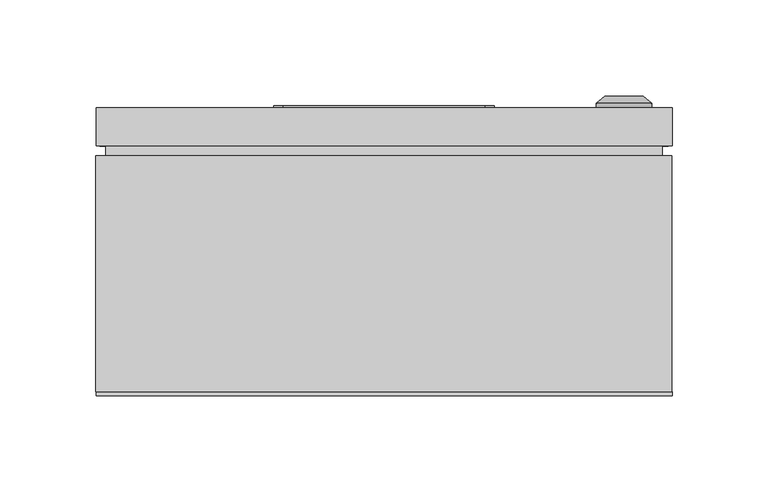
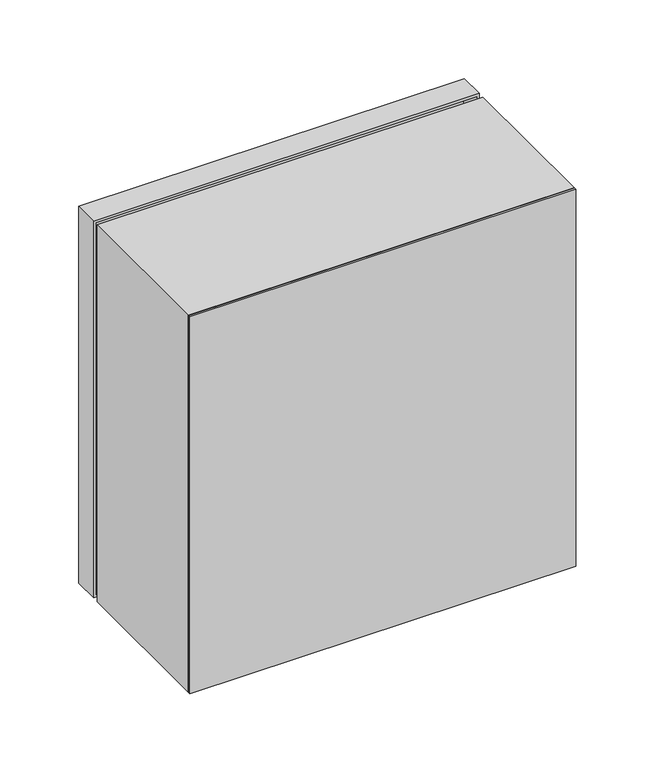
"""IFC4 building model written with IfcOpenShell, lengths in millimetres: proxy geometry, ЩУ-1ф_1-0-3_IP66 : ЩУ-1ф/1-0-3_IP66."""

import ifcopenshell
import ifcopenshell.guid

model = None  # the IFC model being written
_history = None  # IfcOwnerHistory: only IFC2X3 demands one
_inside = {}  # id of a spatial element -> (the spatial element, [elements in it])
_under = {}  # id of a project, library or spatial element -> (it, [spatial elements below it])
_declared = {}  # id of a project -> (the project, [libraries it declares])
_typed = {}  # id of a type object -> (the type object, [elements of that type])
_made_of = {}  # id of a material, layer set ... -> (it, [elements and type objects made of it])


def new_model(schema):
    """Start an empty IFC model of exactly this schema.

    Asked for "IFC4X3", IfcOpenShell would pick the latest addendum, in which some entities
    have other attributes; the version numbers below select the first issue.
    IFC2X3 requires an IfcOwnerHistory on every rooted entity: one is made here for all.
    """
    global model, _history
    if schema == "IFC4X3":
        model = ifcopenshell.file(schema_version=(4, 3, 0, 0))
    else:
        model = ifcopenshell.file(schema=schema)
    _inside.clear()
    _under.clear()
    _declared.clear()
    _typed.clear()
    _made_of.clear()
    _history = None
    if model.schema == "IFC2X3":
        org = make("IfcOrganization", Name="unknown")
        user = make(
            "IfcPersonAndOrganization",
            ThePerson=make("IfcPerson", FamilyName="unknown"),
            TheOrganization=org,
        )
        app = make(
            "IfcApplication",
            ApplicationDeveloper=org,
            Version="unknown",
            ApplicationFullName="unknown",
            ApplicationIdentifier="unknown",
        )
        _history = make(
            "IfcOwnerHistory",
            OwningUser=user,
            OwningApplication=app,
            ChangeAction="ADDED",
            CreationDate=0,
        )
    return model


def make(cls, **values):
    """One entity of the class cls with the attributes given. An attribute that is None is left unset."""
    return model.create_entity(
        cls, **{name: value for name, value in values.items() if value is not None}
    )


def rooted(cls, **values):
    """An entity with a GlobalId (a new one), such as an element, a storey or a relation."""
    return make(cls, GlobalId=ifcopenshell.guid.new(), OwnerHistory=_history, **values)


def si_unit(unit_type, name, prefix=None):
    """IfcSIUnit, for example si_unit("LENGTHUNIT", "METRE", prefix="MILLI")."""
    return make("IfcSIUnit", UnitType=unit_type, Prefix=prefix, Name=name)


def assignment(units):
    """IfcUnitAssignment: the units of a project."""
    return None if units is None else make("IfcUnitAssignment", Units=units)


def point(xyz):
    """IfcCartesianPoint."""
    return None if xyz is None else make("IfcCartesianPoint", Coordinates=xyz)


def direction(xyz):
    """IfcDirection."""
    return None if xyz is None else make("IfcDirection", DirectionRatios=xyz)


def frame(location, z_axis=None, x_axis=None):
    """IfcAxis2Placement3D, a coordinate frame: its origin and axes. An axis left out is left unset."""
    return make(
        "IfcAxis2Placement3D",
        Location=point(location),
        Axis=direction(z_axis),
        RefDirection=direction(x_axis),
    )


def frame_2d(location, x_axis=None):
    """IfcAxis2Placement2D, a coordinate frame in the plane: its origin and x axis."""
    return make(
        "IfcAxis2Placement2D", Location=point(location), RefDirection=direction(x_axis)
    )


def origin():
    """The frame at (0, 0, 0) with its axes left unset."""
    return frame((0.0, 0.0, 0.0))


def origin_with_axes():
    """The frame at (0, 0, 0) with the z axis (0, 0, 1) and the x axis (1, 0, 0) written out."""
    return frame((0.0, 0.0, 0.0), z_axis=(0.0, 0.0, 1.0), x_axis=(1.0, 0.0, 0.0))


def place(relative_to, where):
    """IfcLocalPlacement: puts the frame where relative to a parent placement (None: the world)."""
    return make(
        "IfcLocalPlacement", PlacementRelTo=relative_to, RelativePlacement=where
    )


def context(
    kind, dimensions, precision=None, world=None, true_north=None, identifier=None
):
    """IfcGeometricRepresentationContext, for example the 3D "Model" context."""
    return make(
        "IfcGeometricRepresentationContext",
        ContextIdentifier=identifier,
        ContextType=kind,
        CoordinateSpaceDimension=dimensions,
        Precision=precision,
        WorldCoordinateSystem=world,
        TrueNorth=true_north,
    )


def project(units=None, contexts=None):
    """IfcProject with its units and contexts."""
    return rooted(
        "IfcProject",
        Name="project",
        RepresentationContexts=contexts,
        UnitsInContext=assignment(units),
    )


def spatial(cls, under=None, at=None, **own):
    """A site, building, storey or space (cls), placed at a placement, below another one or the project."""
    s = rooted(cls, ObjectPlacement=at, **own)
    if under is not None:
        _under.setdefault(under.id(), (under, []))[1].append(s)
    return s


def polyline(points):
    """IfcPolyline through the points."""
    return make("IfcPolyline", Points=[point(p) for p in points])


def circle_curve(where, radius):
    """IfcCircle in the frame where."""
    return make("IfcCircle", Position=where, Radius=radius)


def trimmed(basis, trim1, trim2, sense, master):
    """IfcTrimmedCurve: the piece of a basis curve between two trims."""
    return make(
        "IfcTrimmedCurve",
        BasisCurve=basis,
        Trim1=trim1,
        Trim2=trim2,
        SenseAgreement=sense,
        MasterRepresentation=master,
    )


def segment(curve, same_sense, transition):
    """IfcCompositeCurveSegment."""
    return make(
        "IfcCompositeCurveSegment",
        Transition=transition,
        SameSense=same_sense,
        ParentCurve=curve,
    )


def composite_curve(segments, self_intersect=None):
    """IfcCompositeCurve: segments joined end to end."""
    return make("IfcCompositeCurve", Segments=segments, SelfIntersect=self_intersect)


def outline(outer, holes=None, kind="AREA"):
    """IfcArbitraryClosedProfileDef: a profile drawn as a closed curve; with holes, ...WithVoids."""
    if holes is None:
        return make("IfcArbitraryClosedProfileDef", ProfileType=kind, OuterCurve=outer)
    return make(
        "IfcArbitraryProfileDefWithVoids",
        ProfileType=kind,
        OuterCurve=outer,
        InnerCurves=holes,
    )


def extrude(swept, where, along, depth):
    """IfcExtrudedAreaSolid: the profile swept, set in the frame where, extruded along a direction by depth."""
    return make(
        "IfcExtrudedAreaSolid",
        SweptArea=swept,
        Position=where,
        ExtrudedDirection=direction(along),
        Depth=depth,
    )


def faces_of(points, faces, orient=None, outer=None):
    """IfcFace entities. A face is a list of loops; a loop is a list of indices into points, from 0.

    orient and outer hold one flag for each loop. By default every Orientation is true, the
    first loop of a face is its IfcFaceOuterBound and the others are IfcFaceBound.
    """
    made = []
    for i, loops in enumerate(faces):
        bounds = []
        for j, loop in enumerate(loops):
            is_outer = j == 0 if outer is None else outer[i][j]
            bounds.append(
                make(
                    "IfcFaceOuterBound" if is_outer else "IfcFaceBound",
                    Bound=make("IfcPolyLoop", Polygon=[points[k] for k in loop]),
                    Orientation=True if orient is None else orient[i][j],
                )
            )
        made.append(make("IfcFace", Bounds=bounds))
    return made


def faceted_brep(points, faces, orient=None, outer=None, voids=None):
    """IfcFacetedBrep: a solid bounded by flat faces; with voids (closed shells), ...WithVoids."""
    shared = [point(p) for p in points]
    hull = make("IfcClosedShell", CfsFaces=faces_of(shared, faces, orient, outer))
    if voids is None:
        return make("IfcFacetedBrep", Outer=hull)
    return make(
        "IfcFacetedBrepWithVoids",
        Outer=hull,
        Voids=[
            make(cls, CfsFaces=faces_of(shared, fs, o, b)) for cls, fs, o, b in voids
        ],
    )


def shape(context_of_items, identifier, shape_type, items):
    """IfcShapeRepresentation: the items that make up one representation, for example the "Body"."""
    return make(
        "IfcShapeRepresentation",
        ContextOfItems=context_of_items,
        RepresentationIdentifier=identifier,
        RepresentationType=shape_type,
        Items=items,
    )


def source(mapping_origin, context_of_items, identifier, shape_type, items):
    """IfcRepresentationMap: a shape defined once, which mapped items show again and again."""
    return make(
        "IfcRepresentationMap",
        MappingOrigin=mapping_origin,
        MappedRepresentation=shape(context_of_items, identifier, shape_type, items),
    )


def transform(
    local_origin,
    x_axis=None,
    y_axis=None,
    z_axis=None,
    scale=None,
    scale2=None,
    scale3=None,
    uniform=True,
):
    """IfcCartesianTransformationOperator3D, or its non-uniform kind. x_axis, y_axis, z_axis: its Axis1, 2, 3."""
    if uniform:
        return make(
            "IfcCartesianTransformationOperator3D",
            Axis1=direction(x_axis),
            Axis2=direction(y_axis),
            LocalOrigin=point(local_origin),
            Scale=scale,
            Axis3=direction(z_axis),
        )
    return make(
        "IfcCartesianTransformationOperator3DnonUniform",
        Axis1=direction(x_axis),
        Axis2=direction(y_axis),
        LocalOrigin=point(local_origin),
        Scale=scale,
        Axis3=direction(z_axis),
        Scale2=scale2,
        Scale3=scale3,
    )


def mapped(mapping_source, mapping_target):
    """IfcMappedItem: shows the shape of a source again, moved by a transform."""
    return make(
        "IfcMappedItem", MappingSource=mapping_source, MappingTarget=mapping_target
    )


def made_of(thing, what):
    """Note that an element or type object is made of a material, layer set ...; save() writes the relation."""
    if what is not None:
        _made_of.setdefault(what.id(), (what, []))[1].append(thing)
    return thing


def element(
    cls,
    number,
    at=None,
    inside=None,
    cuts=None,
    type_object=None,
    material=None,
    context=None,
    identifier="Body",
    shape_type=None,
    held_by="IfcProductDefinitionShape",
    body=None,
    shapes=None,
    **own,
):
    """One element of the class cls, such as IfcWall. Its Tag is "e" and its number.

    at: its placement. inside: the storey or other place that contains it. cuts: it is an
    opening in that element (IfcRelVoidsElement). A single representation is given by context,
    identifier, shape_type and body (its items); several are given by shapes. held_by: the class
    of the entity that holds the representations. save() writes the other relations.
    """
    e = rooted(cls, Tag="e%d" % number, ObjectPlacement=at, **own)
    if body is not None:
        shapes = [shape(context, identifier, shape_type, body)]
    if shapes is not None:
        e.Representation = make(held_by, Representations=shapes)
    if inside is not None:
        _inside.setdefault(inside.id(), (inside, []))[1].append(e)
    if cuts is not None:
        rooted(
            "IfcRelVoidsElement", RelatingBuildingElement=cuts, RelatedOpeningElement=e
        )
    if type_object is not None:
        _typed.setdefault(type_object.id(), (type_object, []))[1].append(e)
    return made_of(e, material)


def aggregate(whole, parts):
    """IfcRelAggregates: a whole, such as a stair, and the parts it consists of."""
    return rooted("IfcRelAggregates", RelatingObject=whole, RelatedObjects=parts)


def save(model, path):
    """Write the relations noted so far, then the file.

    IfcRelAggregates (storeys below a building ...), IfcRelContainedInSpatialStructure (elements
    in a storey), IfcRelDefinesByType, IfcRelAssociatesMaterial and IfcRelDeclares: one each for
    every whole, place, type object, material and project.
    """
    for whole, parts in _under.values():
        aggregate(whole, parts)
    for where, things in _inside.values():
        rooted(
            "IfcRelContainedInSpatialStructure",
            RelatedElements=things,
            RelatingStructure=where,
        )
    for kind, things in _typed.values():
        rooted("IfcRelDefinesByType", RelatedObjects=things, RelatingType=kind)
    for what, things in _made_of.values():
        rooted("IfcRelAssociatesMaterial", RelatedObjects=things, RelatingMaterial=what)
    for by, libraries in _declared.values():
        rooted("IfcRelDeclares", RelatingContext=by, RelatedDefinitions=libraries)
    model.write(path)


def plane_surface(at):
    """IfcPlane: the flat surface through the origin of the frame at, square to its z axis."""
    return make("IfcPlane", Position=at)


def cylinder_surface(at, radius):
    """IfcCylindricalSurface: all points at the distance radius from the z axis of the frame at."""
    return make("IfcCylindricalSurface", Position=at, Radius=radius)


def revolved_surface(curve, axis_point, axis_direction):
    """IfcSurfaceOfRevolution: the curve turned about the line through axis_point along axis_direction."""
    return make(
        "IfcSurfaceOfRevolution",
        SweptCurve=make("IfcArbitraryOpenProfileDef", ProfileType="CURVE", Curve=curve),
        AxisPosition=make("IfcAxis1Placement", Location=point(axis_point), Axis=direction(axis_direction)),
    )


def advanced_brep(points, edges, surfaces, faces):
    """IfcAdvancedBrep: a solid bounded by faces that lie on surfaces and meet in shared edges.

    An edge is (start, end): straight between two places in points (the first is 0);
    or (start, end, curve); or (start, end, curve, False) where it runs against its curve.
    A face is (place in surfaces, loops), or (place, loops, False) where it looks against
    its surface's normal. A loop lists edges by number (the first is 1), with a minus sign
    where the edge is run from its end to its start. The first loop is the outer one.
    """
    corners = [point(p) for p in points]
    vertices = [make("IfcVertexPoint", VertexGeometry=c) for c in corners]
    made = []
    for start, end, *more in edges:
        made.append(
            make(
                "IfcEdgeCurve",
                EdgeStart=vertices[start],
                EdgeEnd=vertices[end],
                EdgeGeometry=more[0] if more else make("IfcPolyline", Points=[corners[start], corners[end]]),
                SameSense=more[1] if len(more) > 1 else True,
            )
        )
    hull = []
    for where, loops, *sense in faces:
        bounds = []
        for j, loop in enumerate(loops):
            ring = [make("IfcOrientedEdge", EdgeElement=made[abs(k) - 1], Orientation=k > 0) for k in loop]
            bounds.append(
                make(
                    "IfcFaceOuterBound" if j == 0 else "IfcFaceBound",
                    Bound=make("IfcEdgeLoop", EdgeList=ring),
                    Orientation=True,
                )
            )
        hull.append(make("IfcAdvancedFace", Bounds=bounds, FaceSurface=surfaces[where], SameSense=sense[0] if sense else True))
    return make("IfcAdvancedBrep", Outer=make("IfcClosedShell", CfsFaces=hull))


def electrical_equipment_422eb44d(model_context):
    return source(origin(), model_context, "Body", "SolidModel", [
        extrude(outline(composite_curve([segment(polyline([(250.0, 52.5), (250.0, -52.5)]), True, "CONTINUOUS"), segment(trimmed(circle_curve(frame_2d((245.0, -52.5)), 5.0), [point((250.0, -52.5))], [point((245.0, -57.5))], False, "CARTESIAN"), True, "CONTINUOUS"), segment(polyline([(245.0, -57.5), (175.0, -57.5)]), True, "CONTINUOUS"), segment(trimmed(circle_curve(frame_2d((175.0, -52.5)), 5.0), [point((175.0, -57.5))], [point((170.0, -52.5))], False, "CARTESIAN"), True, "CONTINUOUS"), segment(polyline([(170.0, -52.5), (170.0, 52.5)]), True, "CONTINUOUS"), segment(trimmed(circle_curve(frame_2d((175.0, 52.5)), 5.0), [point((170.0, 52.5))], [point((175.0, 57.5))], False, "CARTESIAN"), True, "CONTINUOUS"), segment(polyline([(175.0, 57.5), (245.0, 57.5)]), True, "CONTINUOUS"), segment(trimmed(circle_curve(frame_2d((245.0, 52.5)), 5.0), [point((245.0, 57.5))], [point((250.0, 52.5))], False, "CARTESIAN"), True, "CONTINUOUS")], self_intersect=False), holes=[polyline([(245.0, -52.5), (245.0, 52.5), (175.0, 52.5), (175.0, -52.5), (245.0, -52.5)])]), frame((0.0, 150.0, 0.0), z_axis=(0.0, 1.0, 0.0), x_axis=(0.0, 0.0, 1.0)), (0.0, 0.0, 1.0), 1.0),
        extrude(outline(polyline([(52.5, 148.0), (-52.5, 148.0), (-52.5, 150.0), (52.5, 150.0), (52.5, 148.0)])), frame((0.0, 0.0, 175.0), z_axis=(0.0, 0.0, 1.0), x_axis=(1.0, 0.0, 0.0)), (0.0, 0.0, 1.0), 70.0),
        faceted_brep([(-150.0, 130.0, 310.0), (-150.0, 130.0, 0.0), (150.0, 130.0, 0.0), (150.0, 130.0, 310.0), (-148.0033905, 130.0, 2.0), (-148.0033905, 130.0, 308.0), (147.9966095, 130.0, 308.0), (147.9966095, 130.0, 2.0), (-150.0, 150.0, 310.0), (150.0, 150.0, 310.0), (150.0, 150.0, 0.0), (-150.0, 150.0, 0.0), (-52.5, 150.0, 245.0), (-52.5, 150.0, 175.0), (52.5, 150.0, 175.0), (52.5, 150.0, 245.0), (-148.0033905, 148.0, 308.0), (-148.0033905, 148.0, 2.0), (147.9966095, 148.0, 2.0), (147.9966095, 148.0, 308.0), (-52.5, 148.0, 245.0), (52.5, 148.0, 245.0), (52.5, 148.0, 175.0), (-52.5, 148.0, 175.0)], [[[0, 1, 2, 3], [4, 5, 6, 7]], [[8, 9, 10, 11], [12, 13, 14, 15]], [[1, 0, 8, 11]], [[2, 1, 11, 10]], [[3, 2, 10, 9]], [[0, 3, 9, 8]], [[16, 17, 18, 19], [20, 21, 22, 23]], [[17, 16, 5, 4]], [[18, 17, 4, 7]], [[19, 18, 7, 6]], [[16, 19, 6, 5]], [[12, 15, 21, 20]], [[15, 14, 22, 21]], [[14, 13, 23, 22]], [[13, 12, 20, 23]]]),
        extrude(outline(polyline([(310.0, -150.0033905), (0.0, -150.0033905), (0.0, 149.9966095), (310.0, 149.9966095), (310.0, -150.0033905)]), holes=[polyline([(285.0, -125.0033905), (285.0, 124.9966095), (25.0, 124.9966095), (25.0, -125.0033905), (285.0, -125.0033905)])]), frame((0.0, 2.0, 0.0), z_axis=(0.0, 1.0, 0.0), x_axis=(0.0, 0.0, 1.0)), (0.0, 0.0, 1.0), 123.0),
        extrude(outline(polyline([(150.0, 0.0), (-150.0, 0.0), (-150.0, 2.0), (150.0, 2.0), (150.0, 0.0)])), origin_with_axes(), (0.0, 0.0, 1.0), 310.0),
        extrude(outline(polyline([(145.0, 125.0), (-145.0, 125.0), (-145.0, 130.0), (145.0, 130.0), (145.0, 125.0)])), frame((0.0, 0.0, 5.0), z_axis=(0.0, 0.0, 1.0), x_axis=(1.0, 0.0, 0.0)), (0.0, 0.0, 1.0), 300.0),
        advanced_brep(
        [(110.669873, 150.0, 155.0), (139.330127, 150.0, 155.0), (125.0, 150.0, 155.0), (110.669873, 152.366592, 155.0), (139.330127, 152.366592, 155.0), (115.0, 156.0, 155.0), (135.0, 156.0, 155.0), (123.1080471, 156.0, 155.0), (126.8919529, 156.0, 155.0), (123.1080471, 154.9822294, 155.0), (126.8919529, 154.9822294, 155.0), (125.0, 154.9822294, 155.0)],
        [
            (0, 1, circle_curve(frame((125.0, 150.0, 155.0), z_axis=(0.0, -1.0, 0.0), x_axis=(1.0, 0.0, 0.0)), 14.330127)),
            (1, 2),
            (2, 0),
            (1, 0, circle_curve(frame((125.0, 150.0, 155.0), z_axis=(0.0, -1.0, 0.0), x_axis=(1.0, 0.0, 0.0)), 14.330127)),
            (3, 4, circle_curve(frame((125.0, 152.366592, 155.0), z_axis=(0.0, -1.0, 0.0), x_axis=(1.0, 0.0, 0.0)), 14.330127)),
            (4, 1),
            (0, 3),
            (4, 3, circle_curve(frame((125.0, 152.366592, 155.0), z_axis=(0.0, -1.0, 0.0), x_axis=(1.0, 0.0, 0.0)), 14.330127)),
            (5, 6, circle_curve(frame((125.0, 156.0, 155.0), z_axis=(0.0, -1.0, 0.0), x_axis=(1.0, 0.0, 0.0)), 10.0)),
            (6, 4),
            (3, 5),
            (6, 5, circle_curve(frame((125.0, 156.0, 155.0), z_axis=(0.0, -1.0, 0.0), x_axis=(1.0, 0.0, 0.0)), 10.0)),
            (7, 8, circle_curve(frame((125.0, 156.0, 155.0), z_axis=(0.0, -1.0, 0.0), x_axis=(1.0, 0.0, 0.0)), 1.8919529)),
            (8, 6),
            (5, 7),
            (8, 7, circle_curve(frame((125.0, 156.0, 155.0), z_axis=(0.0, -1.0, 0.0), x_axis=(1.0, 0.0, 0.0)), 1.8919529)),
            (9, 10, circle_curve(frame((125.0, 154.9822294, 155.0), z_axis=(0.0, -1.0, 0.0), x_axis=(1.0, 0.0, 0.0)), 1.8919529)),
            (10, 8),
            (7, 9),
            (10, 9, circle_curve(frame((125.0, 154.9822294, 155.0), z_axis=(0.0, -1.0, 0.0), x_axis=(1.0, 0.0, 0.0)), 1.8919529)),
            (11, 10),
            (9, 11),
        ],
        [
            plane_surface(frame((125.0, 150.0, 155.0), z_axis=(0.0, -1.0, 0.0), x_axis=(1.0, 0.0, 0.0))),
            cylinder_surface(frame((125.0, 163.1348851, 155.0), z_axis=(0.0, 1.0, 0.0), x_axis=(1.0, 0.0, 0.0)), 14.330127),
            revolved_surface(polyline([(139.330127, 152.366592, 155.0), (135.0, 156.0, 155.0)]), (125.0, 163.1348851, 155.0), (0.0, 1.0, 0.0)),
            plane_surface(frame((125.0, 156.0, 155.0), z_axis=(0.0, 1.0, 0.0), x_axis=(1.0, 0.0, 0.0))),
            revolved_surface(polyline([(126.8919529, 156.0, 155.0), (126.8919529, 154.9822294, 155.0)]), (125.0, 163.1348851, 155.0), (0.0, 1.0, 0.0)),
            plane_surface(frame((125.0, 154.9822294, 155.0), z_axis=(0.0, 1.0, 0.0), x_axis=(1.0, 0.0, 0.0))),
        ],
        [
            (0, [[1, 2, 3]]),
            (0, [[4, -3, -2]]),
            (1, [[5, 6, -1, 7]]),
            (1, [[8, -7, -4, -6]]),
            (2, [[9, 10, -5, 11]]),
            (2, [[12, -11, -8, -10]]),
            (3, [[13, 14, -9, 15]]),
            (3, [[16, -15, -12, -14]]),
            (4, [[17, 18, -13, 19]]),
            (4, [[20, -19, -16, -18]]),
            (5, [[21, -17, 22]]),
            (5, [[-22, -20, -21]]),
        ],
    ),
    ])


if __name__ == "__main__":
    model = new_model("IFC4")
    model_context = context("Model", 3, world=origin())
    ifc_project = project(units=[si_unit("LENGTHUNIT", "METRE", prefix="MILLI")], contexts=[model_context])
    site = spatial("IfcSite", under=ifc_project)
    building = spatial("IfcBuilding", under=site)
    placement = place(None, origin())
    electrical_equipment_shape = electrical_equipment_422eb44d(model_context)
    element("IfcBuildingElementProxy", 1, Name="ЩУ-1ф_1-0-3_IP66 : ЩУ-1ф/1-0-3_IP66", ObjectType="ЩУ-1ф_1-0-3_IP66 : ЩУ-1ф/1-0-3_IP66", at=placement, inside=building, context=model_context, shape_type="MappedRepresentation", body=[
        mapped(electrical_equipment_shape, transform((0.0, 0.0, 0.0), x_axis=(1.0, 0.0, 0.0), y_axis=(0.0, 1.0, 0.0), z_axis=(0.0, 0.0, 1.0))),
    ])
    save(model, "model.ifc")
